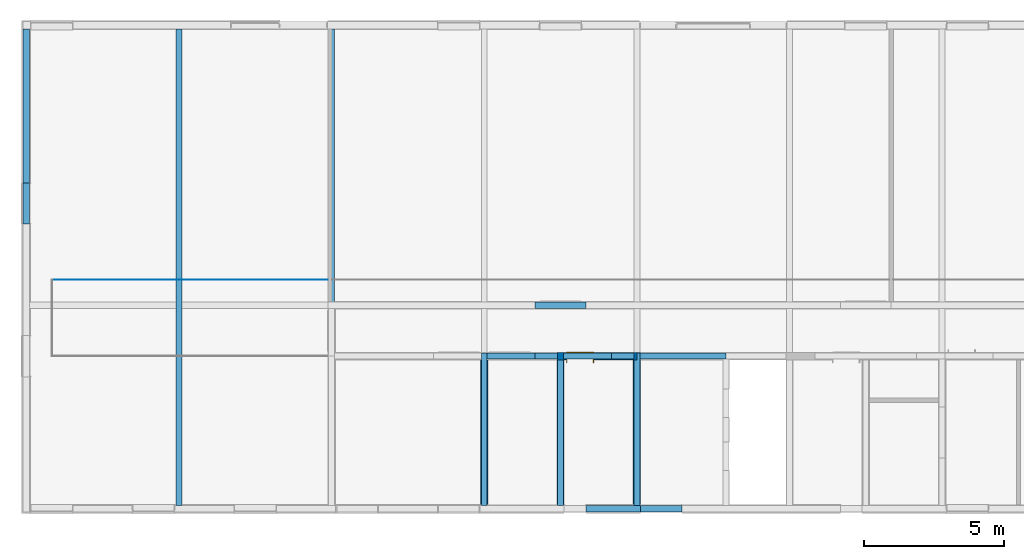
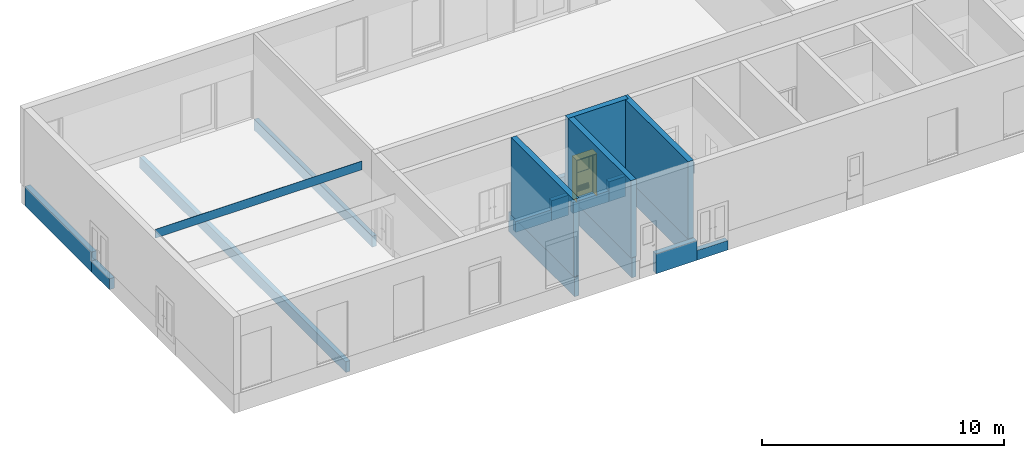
# One storey, part 7 of 22: 20 walls, 1 door, 7 openings.
"""IFC4X3 building model written with IfcOpenShell, lengths in millimetres."""

from ifc_helpers import new_model, entity, si_unit, converted_unit, derived_unit, direction, frame, frame_2d, origin, origin_2d_with_axis, place, context, subcontext, project, spatial, rectangle, extrude, faceted_brep, source, transform, mapped, material, layer, layer_set, constituent, constituent_set, type_object, type_shapes, element, fill, save


model = new_model("IFC4X3")

# Units and contexts
model_context = context("Model", 3, precision=0.01, world=origin(), true_north=direction((6.12303176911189e-17, 1.0)))
body_context = subcontext(model_context, "Body", "Model", "MODEL_VIEW")
ifc_project = project(units=[si_unit("LENGTHUNIT", "METRE", prefix="MILLI"), si_unit("AREAUNIT", "SQUARE_METRE"), si_unit("VOLUMEUNIT", "CUBIC_METRE"), converted_unit("PLANEANGLEUNIT", "DEGREE", entity("IfcPlaneAngleMeasure", 0.0174532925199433), si_unit("PLANEANGLEUNIT", "RADIAN"), dimensions=[0, 0, 0, 0, 0, 0, 0]), si_unit("MASSUNIT", "GRAM", prefix="KILO"), derived_unit("MASSDENSITYUNIT", [(si_unit("MASSUNIT", "GRAM", prefix="KILO"), 1), (si_unit("LENGTHUNIT", "METRE"), -3)]), derived_unit("IONCONCENTRATIONUNIT", [(si_unit("MASSUNIT", "GRAM", prefix="KILO"), 1), (si_unit("LENGTHUNIT", "METRE"), -3)]), derived_unit("MOMENTOFINERTIAUNIT", [(si_unit("LENGTHUNIT", "METRE"), 4)]), si_unit("TIMEUNIT", "SECOND"), si_unit("FREQUENCYUNIT", "HERTZ"), si_unit("THERMODYNAMICTEMPERATUREUNIT", "DEGREE_CELSIUS"), derived_unit("THERMALTRANSMITTANCEUNIT", [(si_unit("MASSUNIT", "GRAM", prefix="KILO"), 1), (si_unit("THERMODYNAMICTEMPERATUREUNIT", "KELVIN"), -1), (si_unit("TIMEUNIT", "SECOND"), -3)]), derived_unit("THERMALCONDUCTANCEUNIT", [(si_unit("MASSUNIT", "GRAM", prefix="KILO"), 1), (si_unit("THERMODYNAMICTEMPERATUREUNIT", "KELVIN"), -1), (si_unit("TIMEUNIT", "SECOND"), -3), (si_unit("LENGTHUNIT", "METRE"), 1)]), derived_unit("VOLUMETRICFLOWRATEUNIT", [(si_unit("LENGTHUNIT", "METRE", prefix="DECI"), 3), (si_unit("TIMEUNIT", "SECOND"), -1)]), derived_unit("MASSFLOWRATEUNIT", [(si_unit("MASSUNIT", "GRAM", prefix="KILO"), 1), (si_unit("TIMEUNIT", "SECOND"), -1)]), derived_unit("ROTATIONALFREQUENCYUNIT", [(si_unit("TIMEUNIT", "SECOND"), -1)]), si_unit("ELECTRICCURRENTUNIT", "AMPERE"), si_unit("ELECTRICVOLTAGEUNIT", "VOLT"), si_unit("POWERUNIT", "WATT"), si_unit("FORCEUNIT", "NEWTON", prefix="KILO"), si_unit("ILLUMINANCEUNIT", "LUX"), si_unit("LUMINOUSFLUXUNIT", "LUMEN"), si_unit("LUMINOUSINTENSITYUNIT", "CANDELA"), si_unit("ENERGYUNIT", "JOULE"), derived_unit("USERDEFINED", [(si_unit("MASSUNIT", "GRAM", prefix="KILO"), -1), (si_unit("LENGTHUNIT", "METRE"), -2), (si_unit("TIMEUNIT", "SECOND"), 3), (si_unit("LUMINOUSFLUXUNIT", "LUMEN"), 1)]), derived_unit("USERDEFINED", [(si_unit("MASSUNIT", "GRAM", prefix="KILO"), 1), (si_unit("TIMEUNIT", "SECOND"), -3), (si_unit("LENGTHUNIT", "METRE"), 3), (si_unit("ELECTRICCURRENTUNIT", "AMPERE"), -2)]), derived_unit("SOUNDPOWERUNIT", [(si_unit("MASSUNIT", "GRAM", prefix="KILO"), 1), (si_unit("TIMEUNIT", "SECOND"), -3), (si_unit("LENGTHUNIT", "METRE"), 2)]), derived_unit("SOUNDPRESSUREUNIT", [(si_unit("MASSUNIT", "GRAM", prefix="KILO"), 1), (si_unit("LENGTHUNIT", "METRE"), -1), (si_unit("TIMEUNIT", "SECOND"), -2)]), derived_unit("LINEARVELOCITYUNIT", [(si_unit("LENGTHUNIT", "METRE"), 1), (si_unit("TIMEUNIT", "SECOND"), -1)]), si_unit("PRESSUREUNIT", "PASCAL"), derived_unit("USERDEFINED", [(si_unit("MASSUNIT", "GRAM", prefix="KILO"), 1), (si_unit("LENGTHUNIT", "METRE"), -2), (si_unit("TIMEUNIT", "SECOND"), -2)]), derived_unit("LINEARFORCEUNIT", [(si_unit("MASSUNIT", "GRAM", prefix="KILO"), 1), (si_unit("TIMEUNIT", "SECOND"), -2)]), derived_unit("PLANARFORCEUNIT", [(si_unit("MASSUNIT", "GRAM", prefix="KILO"), 1), (si_unit("LENGTHUNIT", "METRE"), -1), (si_unit("TIMEUNIT", "SECOND"), -2)]), derived_unit("SPECIFICHEATCAPACITYUNIT", [(si_unit("THERMODYNAMICTEMPERATUREUNIT", "KELVIN"), -1), (si_unit("LENGTHUNIT", "METRE"), 2), (si_unit("TIMEUNIT", "SECOND"), -2)]), derived_unit("HEATFLUXDENSITYUNIT", [(si_unit("MASSUNIT", "GRAM", prefix="KILO"), 1), (si_unit("TIMEUNIT", "SECOND"), -3)]), derived_unit("HEATINGVALUEUNIT", [(si_unit("LENGTHUNIT", "METRE"), 2), (si_unit("TIMEUNIT", "SECOND"), -2)]), derived_unit("VAPORPERMEABILITYUNIT", [(si_unit("LENGTHUNIT", "METRE"), -1), (si_unit("TIMEUNIT", "SECOND"), 1)]), derived_unit("DYNAMICVISCOSITYUNIT", [(si_unit("MASSUNIT", "GRAM", prefix="KILO"), 1), (si_unit("TIMEUNIT", "SECOND"), -1), (si_unit("LENGTHUNIT", "METRE"), -1)]), derived_unit("THERMALEXPANSIONCOEFFICIENTUNIT", [(si_unit("THERMODYNAMICTEMPERATUREUNIT", "KELVIN"), -1)]), derived_unit("MODULUSOFELASTICITYUNIT", [(si_unit("MASSUNIT", "GRAM", prefix="KILO"), 1), (si_unit("LENGTHUNIT", "METRE"), -1), (si_unit("TIMEUNIT", "SECOND"), -2)]), derived_unit("ISOTHERMALMOISTURECAPACITYUNIT", [(si_unit("MASSUNIT", "GRAM", prefix="KILO"), -1), (si_unit("LENGTHUNIT", "METRE"), 3)]), derived_unit("MOISTUREDIFFUSIVITYUNIT", [(si_unit("TIMEUNIT", "SECOND"), -1), (si_unit("LENGTHUNIT", "METRE"), 2)]), derived_unit("AREADENSITYUNIT", [(si_unit("MASSUNIT", "GRAM", prefix="KILO"), 1), (si_unit("LENGTHUNIT", "METRE"), 2)]), derived_unit("MASSPERLENGTHUNIT", [(si_unit("MASSUNIT", "GRAM", prefix="KILO"), 1), (si_unit("LENGTHUNIT", "METRE"), -1)]), derived_unit("THERMALRESISTANCEUNIT", [(si_unit("MASSUNIT", "GRAM", prefix="KILO"), -1), (si_unit("TIMEUNIT", "SECOND"), 3), (si_unit("THERMODYNAMICTEMPERATUREUNIT", "KELVIN"), 1)]), derived_unit("ACCELERATIONUNIT", [(si_unit("LENGTHUNIT", "METRE"), 1), (si_unit("TIMEUNIT", "SECOND"), -2)]), derived_unit("ANGULARVELOCITYUNIT", [(si_unit("TIMEUNIT", "SECOND"), -1), (si_unit("PLANEANGLEUNIT", "RADIAN"), 1)]), derived_unit("LINEARSTIFFNESSUNIT", [(si_unit("MASSUNIT", "GRAM", prefix="KILO"), 1), (si_unit("TIMEUNIT", "SECOND"), -2)]), derived_unit("WARPINGCONSTANTUNIT", [(si_unit("LENGTHUNIT", "METRE"), 6)]), derived_unit("LINEARMOMENTUNIT", [(si_unit("MASSUNIT", "GRAM", prefix="KILO"), 1), (si_unit("LENGTHUNIT", "METRE"), 1), (si_unit("TIMEUNIT", "SECOND"), -2)]), derived_unit("TORQUEUNIT", [(si_unit("MASSUNIT", "GRAM", prefix="KILO"), 1), (si_unit("LENGTHUNIT", "METRE"), 2), (si_unit("TIMEUNIT", "SECOND"), -2)])], contexts=[model_context])

# Site, building, storey
site_placement = place(None, origin())
site = spatial("IfcSite", under=ifc_project, at=site_placement, Name="Default", CompositionType="ELEMENT")
building_placement = place(site_placement, origin())
building = spatial("IfcBuilding", under=site, at=building_placement, Name="事務所ビル", CompositionType="ELEMENT")
storey_placement = place(building_placement, origin())
storey = spatial("IfcBuildingStorey", under=building, at=storey_placement, Name="1FL", CompositionType="ELEMENT", Elevation=0.0)

# Wall
ifc_material_1 = material(Name="*コンクリート")
ifc_layer_1 = layer(ifc_material_1, 240.0, Name="*コンクリート")
ifc_layer_set_1 = layer_set([ifc_layer_1], Name="標準壁:(基礎梁)RC_w240h1000")
wall_type_1 = type_object("IfcWallType", Name="標準壁:(基礎梁)RC_w240h1000", PredefinedType="STANDARD", material=ifc_layer_set_1)
wall_1_placement = place(storey_placement, frame((0.0, 11660.0, -600.0), z_axis=(0.0, 0.0, 1.0), x_axis=(0.0, 1.0, 0.0)))
element("IfcWall", 1, at=wall_1_placement, inside=storey, type_object=wall_type_1, material=ifc_layer_set_1, Name="標準壁:(基礎梁)RC_w240h1000", ObjectType="標準壁:(基礎梁)RC_w240h1000", PredefinedType="NOTDEFINED", context=body_context, shape_type="SweptSolid", body=[
    extrude(rectangle(XDim=5494.99999999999, YDim=240.0, at=frame_2d((2747.5, 7.105427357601e-15), x_axis=(-1.0, 0.0))), origin(), (0.0, 0.0, 1.0), 1000.0),
])

# Wall, openings
wall_2_placement = place(storey_placement, frame((20020.0, 0.0, -600.0)))
wall_2 = element("IfcWall", 2, at=wall_2_placement, inside=storey, type_object=wall_type_1, material=ifc_layer_set_1, Name="標準壁:(基礎梁)RC_w240h1000", ObjectType="標準壁:(基礎梁)RC_w240h1000", PredefinedType="NOTDEFINED", context=body_context, shape_type="SweptSolid", body=[
    extrude(rectangle(XDim=1952.00000000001, YDim=240.0, at=frame_2d((976.000000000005, 0.0), x_axis=(-1.0, 0.0))), origin(), (0.0, 0.0, 1.0), 1000.0),
])
opening_1_placement = place(wall_2_placement, frame((-20020.0, 0.0, 500.0)))
element("IfcOpeningElement", 3, at=opening_1_placement, cuts=wall_2, Name="標準壁:(基礎梁)RC_w240h1000", PredefinedType="OPENING", context=body_context, shape_type="SweptSolid", body=[
    extrude(rectangle(XDim=2055.00000000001, YDim=1480.0, at=origin_2d_with_axis()), frame((22712.0, -1404.0, 1012.49999999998), z_axis=(0.0, 1.0, 0.0), x_axis=(0.0, 0.0, -1.0)), (0.0, 0.0, 1.0), 3048.0),
])
opening_2_placement = place(wall_2_placement, frame((2.0, 120.0, 585.0)))
element("IfcOpeningElement", 4, at=opening_2_placement, cuts=wall_2, Name="鋼製_大枠_片開き_窓付:700x2100:1", PredefinedType="OPENING", context=body_context, shape_type="SweptSolid", body=[
    extrude(rectangle(XDim=2155.00000000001, YDim=779.999999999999, at=frame_2d((1077.5, 390.0), x_axis=(-1.0, 0.0))), frame((0.0, 0.0, 0.0), z_axis=(0.0, -1.0, 0.0), x_axis=(0.0, 0.0, 1.0)), (0.0, 0.0, 1.0), 240.0),
])

# Wall
ifc_layer_2 = layer(ifc_material_1, 240.0, Name="*コンクリート")
ifc_layer_set_2 = layer_set([ifc_layer_2], Name="標準壁:(基礎梁)RC_w240h650")
wall_type_2 = type_object("IfcWallType", Name="標準壁:(基礎梁)RC_w240h650", PredefinedType="STANDARD", material=ifc_layer_set_2)
wall_3_placement = place(storey_placement, frame((0.0, 10180.0, -600.0), z_axis=(0.0, 0.0, 1.0), x_axis=(0.0, 1.0, 0.0)))
element("IfcWall", 5, at=wall_3_placement, inside=storey, type_object=wall_type_2, material=ifc_layer_set_2, Name="標準壁:(基礎梁)RC_w240h650", ObjectType="標準壁:(基礎梁)RC_w240h650", PredefinedType="NOTDEFINED", context=body_context, shape_type="SweptSolid", body=[
    extrude(rectangle(XDim=1480.0, YDim=240.0, at=frame_2d((739.999999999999, 2.1316282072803e-14), x_axis=(-1.0, 0.0))), origin(), (0.0, 0.0, 1.0), 550.0),
])

# Wall, opening
wall_4_placement = place(storey_placement, frame((21972.0, 0.0, -600.0)))
wall_4 = element("IfcWall", 6, at=wall_4_placement, inside=storey, type_object=wall_type_2, material=ifc_layer_set_2, Name="標準壁:(基礎梁)RC_w240h650", ObjectType="標準壁:(基礎梁)RC_w240h650", PredefinedType="NOTDEFINED", context=body_context, shape_type="SweptSolid", body=[
    extrude(rectangle(XDim=1480.0, YDim=240.0, at=frame_2d((739.999999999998, 0.0), x_axis=(-1.0, 0.0))), origin(), (0.0, 0.0, 1.0), 484.999999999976),
])
opening_3_placement = place(wall_4_placement, frame((1480.0, 120.0, 485.0)))
element("IfcOpeningElement", 7, at=opening_3_placement, cuts=wall_4, Name="鋼製_大枠_両開き_框:1400x2000:1", PredefinedType="OPENING", context=body_context, shape_type="SweptSolid", body=[
    extrude(rectangle(XDim=2055.00000000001, YDim=1480.0, at=frame_2d((1027.5, 740.000000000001), x_axis=(-1.0, 0.0))), frame((0.0, 0.0, 0.0), z_axis=(0.0, -1.0, 0.0), x_axis=(0.0, 0.0, 1.0)), (0.0, 0.0, 1.0), 240.0),
])

# Walls
wall_5_placement = place(storey_placement, frame((18200.0, 7280.0, -600.0)))
element("IfcWall", 8, at=wall_5_placement, inside=storey, type_object=wall_type_2, material=ifc_layer_set_2, Name="標準壁:(基礎梁)RC_w240h650", ObjectType="標準壁:(基礎梁)RC_w240h650", PredefinedType="NOTDEFINED", context=body_context, shape_type="SweptSolid", body=[
    extrude(rectangle(XDim=1820.0, YDim=240.0, at=frame_2d((910.000000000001, 0.0), x_axis=(-1.0, 0.0))), origin(), (0.0, 0.0, 1.0), 550.0),
])
ifc_layer_3 = layer(ifc_material_1, 210.0, Name="*コンクリート")
ifc_layer_set_3 = layer_set([ifc_layer_3], Name="標準壁:(基礎梁)RC_w210h650")
wall_type_3 = type_object("IfcWallType", Name="標準壁:(基礎梁)RC_w210h650", PredefinedType="STANDARD", material=ifc_layer_set_3)
wall_6_placement = place(storey_placement, frame((5460.0, 120.0, -600.0), z_axis=(0.0, 0.0, 1.0), x_axis=(0.0, 1.0, 0.0)))
element("IfcWall", 9, at=wall_6_placement, inside=storey, type_object=wall_type_3, material=ifc_layer_set_3, Name="標準壁:(基礎梁)RC_w210h650", ObjectType="標準壁:(基礎梁)RC_w210h650", PredefinedType="NOTDEFINED", context=body_context, shape_type="SweptSolid", body=[
    extrude(rectangle(XDim=17035.0, YDim=210.0, at=frame_2d((8517.5, -2.1316282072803e-13), x_axis=(-1.0, 0.0))), origin(), (0.0, 0.0, 1.0), 550.0),
])
wall_7_placement = place(storey_placement, frame((21945.0, 5460.0, -600.0)))
element("IfcWall", 10, at=wall_7_placement, inside=storey, type_object=wall_type_3, material=ifc_layer_set_3, Name="標準壁:(基礎梁)RC_w210h650", ObjectType="標準壁:(基礎梁)RC_w210h650", PredefinedType="NOTDEFINED", context=body_context, shape_type="SweptSolid", body=[
    extrude(rectangle(XDim=3080.0, YDim=210.0, at=frame_2d((1540.0, -1.63424829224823e-13), x_axis=(-1.0, 0.0))), origin(), (0.0, 0.0, 1.0), 550.0),
])
wall_8_placement = place(storey_placement, frame((19215.0, 5460.0, -600.0)))
element("IfcWall", 11, at=wall_8_placement, inside=storey, type_object=wall_type_3, material=ifc_layer_set_3, Name="標準壁:(基礎梁)RC_w210h650", ObjectType="標準壁:(基礎梁)RC_w210h650", PredefinedType="NOTDEFINED", context=body_context, shape_type="SweptSolid", body=[
    extrude(rectangle(XDim=1715.00000000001, YDim=210.0, at=frame_2d((857.500000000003, -1.56319401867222e-13), x_axis=(-1.0, 0.0))), origin(), (0.0, 0.0, 1.0), 550.0),
])
wall_9_placement = place(storey_placement, frame((10920.0, 7400.0, -600.0), z_axis=(0.0, 0.0, 1.0), x_axis=(0.0, 1.0, 0.0)))
element("IfcWall", 12, at=wall_9_placement, inside=storey, type_object=wall_type_3, material=ifc_layer_set_3, Name="標準壁:(基礎梁)RC_w210h650", ObjectType="標準壁:(基礎梁)RC_w210h650", PredefinedType="NOTDEFINED", context=body_context, shape_type="SweptSolid", body=[
    extrude(rectangle(XDim=9755.0, YDim=210.0, at=frame_2d((4877.5, -6.25277607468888e-13), x_axis=(-1.0, 0.0))), origin(), (0.0, 0.0, 1.0), 550.0),
])
wall_10_placement = place(storey_placement, frame((16485.0, 5460.0, -600.0)))
element("IfcWall", 13, at=wall_10_placement, inside=storey, type_object=wall_type_3, material=ifc_layer_set_3, Name="標準壁:(基礎梁)RC_w210h650", ObjectType="標準壁:(基礎梁)RC_w210h650", PredefinedType="NOTDEFINED", context=body_context, shape_type="SweptSolid", body=[
    extrude(rectangle(XDim=1714.99999999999, YDim=210.0, at=frame_2d((857.499999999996, 0.0), x_axis=(-1.0, 0.0))), origin(), (0.0, 0.0, 1.0), 550.0),
])
ifc_layer_4 = layer(ifc_material_1, 210.0, Name="*コンクリート")
ifc_layer_set_4 = layer_set([ifc_layer_4], Name="標準壁:(基礎梁)RC_w210h1000")
wall_type_4 = type_object("IfcWallType", Name="標準壁:(基礎梁)RC_w210h1000", PredefinedType="STANDARD", material=ifc_layer_set_4)
for number, where, z_axis, x_axis in (
    (14, (16380.0, 120.0, -600.0), (0.0, 0.0, 1.0), (0.0, 1.0, 0.0)),
    (15, (19110.0, 120.0, -600.0), (0.0, 0.0, 1.0), (0.0, 1.0, 0.0)),
):
    element("IfcWall", number, at=place(storey_placement, frame(where, z_axis=z_axis, x_axis=x_axis)), inside=storey, type_object=wall_type_4, material=ifc_layer_set_4, Name="標準壁:(基礎梁)RC_w210h1000", ObjectType="標準壁:(基礎梁)RC_w210h1000", PredefinedType="NOTDEFINED", context=body_context, shape_type="SweptSolid", body=[
        extrude(rectangle(XDim=5445.0, YDim=210.0, at=frame_2d((2722.5, -1.4210854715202e-14), x_axis=(-1.0, 0.0))), origin(), (0.0, 0.0, 1.0), 1000.0),
    ])
wall_11_placement = place(storey_placement, frame((19005.0, 5460.0, -600.0), z_axis=(0.0, 0.0, 1.0), x_axis=(-1.0, 0.0, 0.0)))
element("IfcWall", 16, at=wall_11_placement, inside=storey, type_object=wall_type_4, material=ifc_layer_set_4, Name="標準壁:(基礎梁)RC_w210h1000", ObjectType="標準壁:(基礎梁)RC_w210h1000", PredefinedType="NOTDEFINED", context=body_context, shape_type="SweptSolid", body=[
    extrude(rectangle(XDim=805.000000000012, YDim=210.0, at=frame_2d((402.500000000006, -1.91846538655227e-13), x_axis=(-1.0, 0.0))), origin(), (0.0, 0.0, 1.0), 1000.0),
])
wall_12_placement = place(storey_placement, frame((21840.0, 120.0, -600.0), z_axis=(0.0, 0.0, 1.0), x_axis=(0.0, 1.0, 0.0)))
element("IfcWall", 17, at=wall_12_placement, inside=storey, type_object=wall_type_4, material=ifc_layer_set_4, Name="標準壁:(基礎梁)RC_w210h1000", ObjectType="標準壁:(基礎梁)RC_w210h1000", PredefinedType="NOTDEFINED", context=body_context, shape_type="SweptSolid", body=[
    extrude(rectangle(XDim=5445.0, YDim=210.000000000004, at=frame_2d((2722.5, -7.105427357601e-15), x_axis=(-1.0, 0.0))), origin(), (0.0, 0.0, 1.0), 1000.0),
])
wall_13_placement = place(storey_placement, frame((21735.0, 5460.0, -600.0), z_axis=(0.0, 0.0, 1.0), x_axis=(-1.0, 0.0, 0.0)))
element("IfcWall", 18, at=wall_13_placement, inside=storey, type_object=wall_type_4, material=ifc_layer_set_4, Name="標準壁:(基礎梁)RC_w210h1000", ObjectType="標準壁:(基礎梁)RC_w210h1000", PredefinedType="NOTDEFINED", context=body_context, shape_type="SweptSolid", body=[
    extrude(rectangle(XDim=804.999999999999, YDim=210.0, at=frame_2d((402.499999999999, -1.91846538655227e-13), x_axis=(-1.0, 0.0))), origin(), (0.0, 0.0, 1.0), 1000.0),
])
ifc_material_2 = material(Name="せっこうボード", Category="一般")
ifc_layer_5 = layer(ifc_material_2, 15.0, Name="せっこうボード", Category="一般")
ifc_material_3 = material(Name="合板", Category="一般")
ifc_layer_6 = layer(ifc_material_3, 12.0, Name="合板", Category="一般")
ifc_material_4 = material(Name="天然木材", Category="一般")
ifc_layer_7 = layer(ifc_material_4, 210.0, Name="天然木材", Category="一般")
ifc_layer_8 = layer(ifc_material_3, 12.0, Name="合板", Category="一般")
ifc_layer_9 = layer(ifc_material_2, 15.0, Name="せっこうボード", Category="一般")
ifc_layer_set_5 = layer_set([ifc_layer_5, ifc_layer_6, ifc_layer_7, ifc_layer_8, ifc_layer_9], Name="標準壁:GB-R15_構造用合板12_木210_構造用合板12_GB-R15")
wall_type_5 = type_object("IfcWallType", Name="標準壁:GB-R15_構造用合板12_木210_構造用合板12_GB-R15", PredefinedType="STANDARD", material=ifc_layer_set_5)
wall_14_placement = place(storey_placement, frame((16380.0, 147.0, 400.0), z_axis=(0.0, 0.0, 1.0), x_axis=(0.0, 1.0, 0.0)))
element("IfcWall", 19, at=wall_14_placement, inside=storey, type_object=wall_type_5, material=ifc_layer_set_5, Name="標準壁:GB-R15_構造用合板12_木210_構造用合板12_GB-R15", ObjectType="標準壁:GB-R15_構造用合板12_木210_構造用合板12_GB-R15", PredefinedType="NOTDEFINED", context=body_context, shape_type="SweptSolid", body=[
    extrude(rectangle(XDim=5181.00000000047, YDim=264.000000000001, at=frame_2d((2590.50000000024, -2.27373675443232e-13), x_axis=(-1.0, 0.0))), origin(), (0.0, 0.0, 1.0), 3900.0),
])
wall_15_placement = place(storey_placement, frame((19110.0, 147.0, 400.0), z_axis=(0.0, 0.0, 1.0), x_axis=(0.0, 1.0, 0.0)))
element("IfcWall", 20, at=wall_15_placement, inside=storey, type_object=wall_type_5, material=ifc_layer_set_5, Name="標準壁:GB-R15_構造用合板12_木210_構造用合板12_GB-R15", ObjectType="標準壁:GB-R15_構造用合板12_木210_構造用合板12_GB-R15", PredefinedType="NOTDEFINED", context=body_context, shape_type="SweptSolid", body=[
    extrude(rectangle(XDim=5181.00000000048, YDim=264.000000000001, at=frame_2d((2590.50000000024, -2.27373675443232e-13), x_axis=(-1.0, 0.0))), origin(), (0.0, 0.0, 1.0), 3900.0),
])

# Wall, openings
wall_16_placement = place(storey_placement, frame((21840.0, 147.0, 400.0), z_axis=(0.0, 0.0, 1.0), x_axis=(0.0, 1.0, 0.0)))
wall_16 = element("IfcWall", 21, at=wall_16_placement, inside=storey, type_object=wall_type_5, material=ifc_layer_set_5, Name="標準壁:GB-R15_構造用合板12_木210_構造用合板12_GB-R15", ObjectType="標準壁:GB-R15_構造用合板12_木210_構造用合板12_GB-R15", PredefinedType="NOTDEFINED", context=body_context, shape_type="SweptSolid", body=[
    extrude(rectangle(XDim=5445.00000000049, YDim=264.000000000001, at=frame_2d((2722.50000000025, -1.4210854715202e-14), x_axis=(1.0, 0.0))), origin(), (0.0, 0.0, 1.0), 3900.0),
])
opening_4_placement = place(wall_16_placement, frame((-147.0, 21840.0, -400.0)))
element("IfcOpeningElement", 22, at=opening_4_placement, cuts=wall_16, Name="標準壁:GB-R15_構造用合板12_木210_構造用合板12_GB-R15", PredefinedType="OPENING", context=body_context, shape_type="SweptSolid", body=[
    extrude(rectangle(XDim=2100.0, YDim=264.0, at=frame_2d((-5.40012479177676e-13, 0.0), x_axis=(0.0, 1.0))), frame((5460.0, -24247.0, 1050.0), z_axis=(0.0, 1.0, 0.0), x_axis=(1.0, 0.0, 0.0)), (0.0, 0.0, 1.0), 2275.0),
])
opening_5_placement = place(wall_16_placement, frame((-147.0, 21840.0, 3900.0)))
element("IfcOpeningElement", 23, at=opening_5_placement, cuts=wall_16, Name="標準壁:GB-R15_構造用合板12_木210_構造用合板12_GB-R15", PredefinedType="OPENING", context=body_context, shape_type="SweptSolid", body=[
    extrude(rectangle(XDim=2100.0, YDim=264.0, at=frame_2d((-5.40012479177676e-13, 5.6843418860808e-13), x_axis=(0.0, 1.0))), frame((5460.0, -24247.0, 1050.0), z_axis=(0.0, 1.0, 0.0), x_axis=(1.0, 0.0, 0.0)), (0.0, 0.0, 1.0), 2275.0),
])

# Wall, openings, door
wall_17_placement = place(storey_placement, frame((18978.0, 5460.0, 400.0)))
wall_17 = element("IfcWall", 24, at=wall_17_placement, inside=storey, type_object=wall_type_5, material=ifc_layer_set_5, Name="標準壁:GB-R15_構造用合板12_木210_構造用合板12_GB-R15", ObjectType="標準壁:GB-R15_構造用合板12_木210_構造用合板12_GB-R15", PredefinedType="NOTDEFINED", context=body_context, shape_type="SweptSolid", body=[
    extrude(rectangle(XDim=2862.00000000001, YDim=264.000000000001, at=frame_2d((1431.0, 2.55795384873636e-13), x_axis=(-1.0, 0.0))), origin(), (0.0, 0.0, 1.0), 3900.0),
])
opening_6_placement = place(wall_17_placement, frame((-18978.0, -5460.0, 3900.0)))
element("IfcOpeningElement", 25, at=opening_6_placement, cuts=wall_17, Name="標準壁:GB-R15_構造用合板12_木210_構造用合板12_GB-R15", PredefinedType="OPENING", context=body_context, shape_type="SweptSolid", body=[
    extrude(rectangle(XDim=2140.0, YDim=979.999999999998, at=frame_2d((2.18847162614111e-12, 0.0), x_axis=(0.0, 1.0))), frame((19810.0, 3804.0, 1070.0), z_axis=(0.0, 1.0, 0.0), x_axis=(1.0, 0.0, 0.0)), (0.0, 0.0, 1.0), 3048.0),
])
opening_7_placement = place(wall_17_placement, frame((342.0, -132.0, -400.0)))
opening_7 = element("IfcOpeningElement", 26, at=opening_7_placement, cuts=wall_17, Name="鋼製_一般枠_片開き 1:鋼製_一般枠_片開き 1:1", PredefinedType="OPENING", context=body_context, shape_type="SweptSolid", body=[
    extrude(rectangle(XDim=2140.0, YDim=979.999999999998, at=frame_2d((1070.0, 490.0), x_axis=(-1.0, 0.0))), frame((0.0, 0.0, 0.0), z_axis=(0.0, 1.0, 0.0), x_axis=(0.0, 0.0, 1.0)), (0.0, 0.0, 1.0), 264.0),
])
ifc_material_5 = material(Name="金属 - アルミニウム", Category="未設定")
ifc_constituent_1 = constituent(ifc_material_5, Name="金属 - アルミニウム", Category="未設定")
ifc_material_6 = material(Name="塗装 - 白", Category="未設定")
ifc_constituent_2 = constituent(ifc_material_6, Name="塗装 - 白", Category="未設定")
ifc_material_7 = material(Name="ガラス", Category="ガラス")
ifc_constituent_3 = constituent(ifc_material_7, Name="ガラス", Category="ガラス")
ifc_constituent_set_1 = constituent_set(constituents=[ifc_constituent_1, ifc_constituent_2, ifc_constituent_3])
ifc_constituent_4 = constituent(ifc_material_5, Name="金属 - アルミニウム", Category="未設定")
ifc_constituent_5 = constituent(ifc_material_6, Name="パネル", Category="未設定")
ifc_constituent_6 = constituent(ifc_material_7, Name="ガラス", Category="ガラス")
ifc_constituent_7 = constituent(ifc_material_5, Name="フレーム/マリオン", Category="未設定")
ifc_constituent_set_2 = constituent_set(constituents=[ifc_constituent_4, ifc_constituent_5, ifc_constituent_6, ifc_constituent_7])
door_type = type_object("IfcDoorType", Name="鋼製_一般枠_片開き 1:鋼製_一般枠_片開き 1", OperationType="SINGLE_SWING_LEFT", ParameterTakesPrecedence=False, PredefinedType="DOOR", material=ifc_constituent_set_2)
shared_shape = source(origin(), body_context, "Body", "Brep", [
    faceted_brep([(790.0, 269.0, 493.333333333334), (790.0, 269.0, 498.333333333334), (790.0, 239.0, 513.333333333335), (790.0, 229.0, 508.333333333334), (790.0, 229.0, 503.333333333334), (790.0, 239.0, 508.333333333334), (190.0, 269.0, 493.333333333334), (190.0, 239.0, 508.333333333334), (190.0, 229.0, 503.333333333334), (190.0, 229.0, 508.333333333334), (190.0, 239.0, 513.333333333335), (190.0, 269.0, 498.333333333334)], [[[0, 1, 2, 3, 4, 5]], [[6, 7, 8, 9, 10, 11]], [[5, 7, 6, 0]], [[4, 8, 7, 5]], [[3, 9, 8, 4]], [[2, 10, 9, 3]], [[1, 11, 10, 2]], [[0, 6, 11, 1]]]),
    faceted_brep([(790.0, 269.0, 466.666666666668), (790.0, 269.0, 471.666666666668), (790.0, 239.0, 486.666666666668), (790.0, 229.0, 481.666666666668), (790.0, 229.0, 476.666666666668), (790.0, 239.0, 481.666666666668), (190.0, 269.0, 466.666666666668), (190.0, 239.0, 481.666666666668), (190.0, 229.0, 476.666666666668), (190.0, 229.0, 481.666666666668), (190.0, 239.0, 486.666666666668), (190.0, 269.0, 471.666666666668)], [[[0, 1, 2, 3, 4, 5]], [[6, 7, 8, 9, 10, 11]], [[5, 7, 6, 0]], [[4, 8, 7, 5]], [[3, 9, 8, 4]], [[2, 10, 9, 3]], [[1, 11, 10, 2]], [[0, 6, 11, 1]]]),
    faceted_brep([(790.0, 269.0, 440.0), (790.0, 269.0, 445.0), (790.0, 239.0, 460.0), (790.0, 229.0, 455.0), (790.0, 229.0, 450.0), (790.0, 239.0, 455.0), (190.0, 269.0, 440.0), (190.0, 239.0, 455.0), (190.0, 229.0, 450.0), (190.0, 229.0, 455.0), (190.0, 239.0, 460.0), (190.0, 269.0, 445.0)], [[[0, 1, 2, 3, 4, 5]], [[6, 7, 8, 9, 10, 11]], [[5, 7, 6, 0]], [[4, 8, 7, 5]], [[3, 9, 8, 4]], [[2, 10, 9, 3]], [[1, 11, 10, 2]], [[0, 6, 11, 1]]]),
    faceted_brep([(790.0, 269.0, 413.333333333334), (790.0, 269.0, 418.333333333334), (790.0, 239.0, 433.333333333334), (790.0, 229.0, 428.333333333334), (790.0, 229.0, 423.333333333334), (790.0, 239.0, 428.333333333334), (190.0, 269.0, 413.333333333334), (190.0, 239.0, 428.333333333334), (190.0, 229.0, 423.333333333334), (190.0, 229.0, 428.333333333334), (190.0, 239.0, 433.333333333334), (190.0, 269.0, 418.333333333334)], [[[0, 1, 2, 3, 4, 5]], [[6, 7, 8, 9, 10, 11]], [[5, 7, 6, 0]], [[4, 8, 7, 5]], [[3, 9, 8, 4]], [[2, 10, 9, 3]], [[1, 11, 10, 2]], [[0, 6, 11, 1]]]),
    faceted_brep([(790.0, 269.0, 386.666666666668), (790.0, 269.0, 391.666666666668), (790.0, 239.0, 406.666666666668), (790.0, 229.0, 401.666666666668), (790.0, 229.0, 396.666666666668), (790.0, 239.0, 401.666666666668), (190.0, 269.0, 386.666666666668), (190.0, 239.0, 401.666666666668), (190.0, 229.0, 396.666666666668), (190.0, 229.0, 401.666666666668), (190.0, 239.0, 406.666666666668), (190.0, 269.0, 391.666666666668)], [[[0, 1, 2, 3, 4, 5]], [[6, 7, 8, 9, 10, 11]], [[5, 7, 6, 0]], [[4, 8, 7, 5]], [[3, 9, 8, 4]], [[2, 10, 9, 3]], [[1, 11, 10, 2]], [[0, 6, 11, 1]]]),
    faceted_brep([(790.0, 269.0, 360.0), (790.0, 269.0, 365.0), (790.0, 239.0, 380.0), (790.0, 229.0, 375.0), (790.0, 229.0, 370.0), (790.0, 239.0, 375.0), (190.0, 269.0, 360.0), (190.0, 239.0, 375.0), (190.0, 229.0, 370.0), (190.0, 229.0, 375.0), (190.0, 239.0, 380.0), (190.0, 269.0, 365.0)], [[[0, 1, 2, 3, 4, 5]], [[6, 7, 8, 9, 10, 11]], [[5, 7, 6, 0]], [[4, 8, 7, 5]], [[3, 9, 8, 4]], [[2, 10, 9, 3]], [[1, 11, 10, 2]], [[0, 6, 11, 1]]]),
    faceted_brep([(790.0, 269.0, 333.333333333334), (790.0, 269.0, 338.333333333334), (790.0, 239.0, 353.333333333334), (790.0, 229.0, 348.333333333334), (790.0, 229.0, 343.333333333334), (790.0, 239.0, 348.333333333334), (190.0, 269.0, 333.333333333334), (190.0, 239.0, 348.333333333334), (190.0, 229.0, 343.333333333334), (190.0, 229.0, 348.333333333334), (190.0, 239.0, 353.333333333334), (190.0, 269.0, 338.333333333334)], [[[0, 1, 2, 3, 4, 5]], [[6, 7, 8, 9, 10, 11]], [[5, 7, 6, 0]], [[4, 8, 7, 5]], [[3, 9, 8, 4]], [[2, 10, 9, 3]], [[1, 11, 10, 2]], [[0, 6, 11, 1]]]),
    faceted_brep([(790.0, 269.0, 306.666666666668), (790.0, 269.0, 311.666666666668), (790.0, 239.0, 326.666666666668), (790.0, 229.0, 321.666666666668), (790.0, 229.0, 316.666666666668), (790.0, 239.0, 321.666666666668), (190.0, 269.0, 306.666666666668), (190.0, 239.0, 321.666666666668), (190.0, 229.0, 316.666666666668), (190.0, 229.0, 321.666666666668), (190.0, 239.0, 326.666666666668), (190.0, 269.0, 311.666666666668)], [[[0, 1, 2, 3, 4, 5]], [[6, 7, 8, 9, 10, 11]], [[5, 7, 6, 0]], [[4, 8, 7, 5]], [[3, 9, 8, 4]], [[2, 10, 9, 3]], [[1, 11, 10, 2]], [[0, 6, 11, 1]]]),
    faceted_brep([(790.0, 269.0, 520.0), (790.0, 269.0, 525.0), (790.0, 239.0, 540.0), (790.0, 229.0, 535.0), (790.0, 229.0, 530.0), (790.0, 239.0, 535.0), (190.0, 269.0, 520.0), (190.0, 239.0, 535.0), (190.0, 229.0, 530.0), (190.0, 229.0, 535.0), (190.0, 239.0, 540.0), (190.0, 269.0, 525.0)], [[[0, 1, 2, 3, 4, 5]], [[6, 7, 8, 9, 10, 11]], [[5, 7, 6, 0]], [[4, 8, 7, 5]], [[3, 9, 8, 4]], [[2, 10, 9, 3]], [[1, 11, 10, 2]], [[0, 6, 11, 1]]]),
    faceted_brep([(790.0, 269.0, 280.0), (790.0, 269.0, 285.0), (790.0, 239.0, 300.0), (790.0, 229.0, 295.0), (790.0, 229.0, 290.0), (790.0, 239.0, 295.0), (190.0, 269.0, 280.0), (190.0, 239.0, 295.0), (190.0, 229.0, 290.0), (190.0, 229.0, 295.0), (190.0, 239.0, 300.0), (190.0, 269.0, 285.0)], [[[0, 1, 2, 3, 4, 5]], [[6, 7, 8, 9, 10, 11]], [[5, 7, 6, 0]], [[4, 8, 7, 5]], [[3, 9, 8, 4]], [[2, 10, 9, 3]], [[1, 11, 10, 2]], [[0, 6, 11, 1]]]),
    faceted_brep([(800.0, 269.0, 260.0), (180.0, 269.0, 260.0), (180.0, 269.0, 560.0), (800.0, 269.0, 560.0), (790.0, 269.0, 270.0), (790.0, 269.0, 550.0), (190.0, 269.0, 550.0), (190.0, 269.0, 270.0), (800.0, 229.0, 260.0), (800.0, 229.0, 560.0), (180.0, 229.0, 560.0), (180.0, 229.0, 260.0), (790.0, 229.0, 270.0), (190.0, 229.0, 270.0), (190.0, 229.0, 550.0), (790.0, 229.0, 550.0)], [[[0, 1, 2, 3], [4, 5, 6, 7]], [[8, 9, 10, 11], [12, 13, 14, 15]], [[3, 9, 8, 0]], [[2, 10, 9, 3]], [[1, 11, 10, 2]], [[0, 8, 11, 1]], [[7, 13, 12, 4]], [[6, 14, 13, 7]], [[5, 15, 14, 6]], [[4, 12, 15, 5]]]),
    faceted_brep([(800.0, 229.0, 1210.0), (800.0, 229.0, 1960.0), (180.0, 229.0, 1960.0), (180.0, 229.0, 1210.0), (790.0, 229.0, 1220.0), (190.0, 229.0, 1220.0), (190.0, 229.0, 1950.0), (790.0, 229.0, 1950.0), (800.0, 269.0, 1210.0), (180.0, 269.0, 1210.0), (180.0, 269.0, 1960.0), (800.0, 269.0, 1960.0), (790.0, 269.0, 1220.0), (790.0, 269.0, 1950.0), (190.0, 269.0, 1950.0), (190.0, 269.0, 1220.0)], [[[0, 1, 2, 3], [4, 5, 6, 7]], [[8, 9, 10, 11], [12, 13, 14, 15]], [[1, 0, 8, 11]], [[2, 1, 11, 10]], [[3, 2, 10, 9]], [[0, 3, 9, 8]], [[5, 4, 12, 15]], [[6, 5, 15, 14]], [[7, 6, 14, 13]], [[4, 7, 13, 12]]]),
    faceted_brep([(800.0, 244.0, 1210.0), (800.0, 244.0, 1960.0), (180.0, 244.0, 1960.0), (180.0, 244.0, 1210.0), (800.0, 249.0, 1210.0), (180.0, 249.0, 1210.0), (180.0, 249.0, 1960.0), (800.0, 249.0, 1960.0)], [[[0, 1, 2, 3]], [[4, 5, 6, 7]], [[1, 0, 4, 7]], [[2, 1, 7, 6]], [[3, 2, 6, 5]], [[0, 3, 5, 4]]]),
    faceted_brep([(950.0, 229.0, 10.0), (950.0, 229.0, 2110.0), (30.0, 229.0, 2110.0), (30.0, 229.0, 10.0), (800.0, 229.0, 260.0), (180.0, 229.0, 260.0), (180.0, 229.0, 560.0), (800.0, 229.0, 560.0), (800.0, 229.0, 1210.0), (180.0, 229.0, 1210.0), (180.0, 229.0, 1960.0), (800.0, 229.0, 1960.0), (950.0, 269.0, 10.0), (30.0, 269.0, 10.0), (30.0, 269.0, 2110.0), (950.0, 269.0, 2110.0), (800.0, 269.0, 260.0), (800.0, 269.0, 560.0), (180.0, 269.0, 560.0), (180.0, 269.0, 260.0), (800.0, 269.0, 1210.0), (800.0, 269.0, 1960.0), (180.0, 269.0, 1960.0), (180.0, 269.0, 1210.0)], [[[0, 1, 2, 3], [4, 5, 6, 7], [8, 9, 10, 11]], [[12, 13, 14, 15], [16, 17, 18, 19], [20, 21, 22, 23]], [[1, 0, 12, 15]], [[2, 1, 15, 14]], [[3, 2, 14, 13]], [[0, 3, 13, 12]], [[5, 4, 16, 19]], [[6, 5, 19, 18]], [[7, 6, 18, 17]], [[4, 7, 17, 16]], [[9, 8, 20, 23]], [[10, 9, 23, 22]], [[11, 10, 22, 21]], [[8, 11, 21, 20]]]),
    faceted_brep([(955.0, 274.0, 0.0), (980.0, 274.0, 0.0), (980.0, -110.0, 0.0), (955.0, -110.0, 0.0), (955.0, 194.0, 0.0), (940.0, 194.0, 0.0), (940.0, 224.0, 0.0), (955.0, 224.0, 0.0), (955.0, 274.0, 2115.0), (25.0, 274.0, 2115.0), (25.0, 274.0, 0.0), (0.0, 274.0, 0.0), (0.0, 274.0, 2140.0), (980.0, 274.0, 2140.0), (980.0, -110.0, 2140.0), (0.0, -110.0, 2140.0), (0.0, -110.0, 0.0), (25.0, -110.0, 0.0), (25.0, -110.0, 2115.0), (955.0, -110.0, 2115.0), (955.0, 194.0, 2115.0), (25.0, 194.0, 2115.0), (25.0, 194.0, 0.0), (40.0, 194.0, 0.0), (40.0, 194.0, 2100.0), (940.0, 194.0, 2100.0), (940.0, 224.0, 2100.0), (40.0, 224.0, 2100.0), (40.0, 224.0, 0.0), (25.0, 224.0, 0.0), (25.0, 224.0, 2115.0), (955.0, 224.0, 2115.0)], [[[0, 1, 2, 3, 4, 5, 6, 7]], [[1, 0, 8, 9, 10, 11, 12, 13]], [[2, 1, 13, 14]], [[3, 2, 14, 15, 16, 17, 18, 19]], [[4, 3, 19, 20]], [[5, 4, 20, 21, 22, 23, 24, 25]], [[6, 5, 25, 26]], [[7, 6, 26, 27, 28, 29, 30, 31]], [[0, 7, 31, 8]], [[14, 13, 12, 15]], [[20, 19, 18, 21]], [[26, 25, 24, 27]], [[8, 31, 30, 9]], [[10, 29, 28, 23, 22, 17, 16, 11]], [[15, 12, 11, 16]], [[21, 18, 17, 22]], [[27, 24, 23, 28]], [[9, 30, 29, 10]]]),
])
type_shapes(door_type, [shared_shape])
door_placement = place(opening_7_placement, origin())
door = element("IfcDoor", 27, at=door_placement, inside=storey, type_object=door_type, material=ifc_constituent_set_1, Name="鋼製_一般枠_片開き 1:鋼製_一般枠_片開き 1", ObjectType="鋼製_一般枠_片開き 1:鋼製_一般枠_片開き 1", OperationType="SINGLE_SWING_LEFT", OverallHeight=2140.0, OverallWidth=980.000000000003, PredefinedType="DOOR", context=body_context, shape_type="MappedRepresentation", body=[
    mapped(shared_shape, transform((0.0, 0.0, 0.0), scale=1.0)),
])
fill(opening_7, door)

# Wall
ifc_material_8 = material(Name="<Unnamed>")
ifc_layer_10 = layer(ifc_material_8, 15.0, Name="Layer")
ifc_layer_set_6 = layer_set([ifc_layer_10], Name="標準壁:GB-R15")
wall_type_6 = type_object("IfcWallType", Name="標準壁:GB-R15", PredefinedType="STANDARD", material=ifc_layer_set_6)
wall_18_placement = place(storey_placement, frame((917.499999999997, 8190.0, 2850.0)))
element("IfcWall", 28, at=wall_18_placement, inside=storey, type_object=wall_type_6, material=ifc_layer_set_6, Name="標準壁:GB-R15", ObjectType="標準壁:GB-R15", PredefinedType="NOTDEFINED", context=body_context, shape_type="SweptSolid", body=[
    extrude(rectangle(XDim=9870.49999999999, YDim=15.0000000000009, at=frame_2d((4935.25, -1.35003119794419e-13), x_axis=(-1.0, 0.0))), origin(), (0.0, 0.0, 1.0), 440.0),
])

save(model, "model.ifc")
